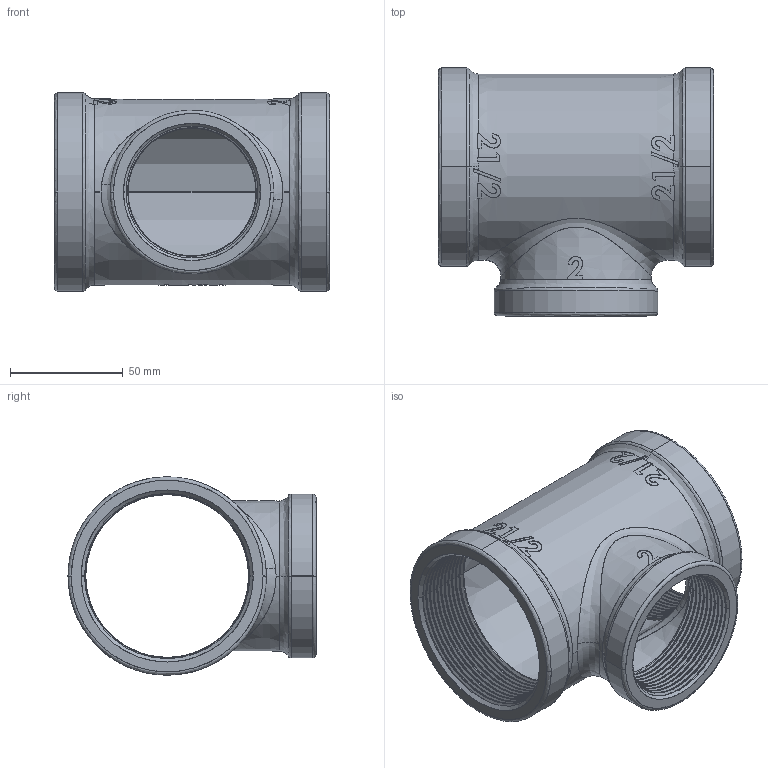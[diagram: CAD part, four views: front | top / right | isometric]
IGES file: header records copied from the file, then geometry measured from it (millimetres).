
Start section: SolidWorks IGES file using analytic representation for surfaces
Global section: file name: C:\Users\Joel Rosa\Desktop\Tubulação\12-45-XXX\12-45-051.IGS; native system: SolidWorks 2011; preprocessor: SolidWorks 2011; author: Joel Rosa; date: 121212.234605; units: millimetre
Bounding box: 122 x 110 x 88 mm (x, y, z)
Surface area: 83413.9 mm2 (no closed solid volume)
Topology: 0 solids, 0 shells, 540 faces, 5501 edges, 5501 vertices
Faces by surface type: bspline 370, revolution 170
